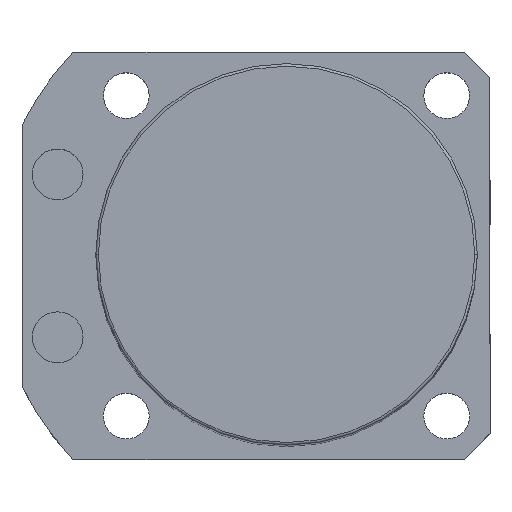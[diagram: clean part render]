
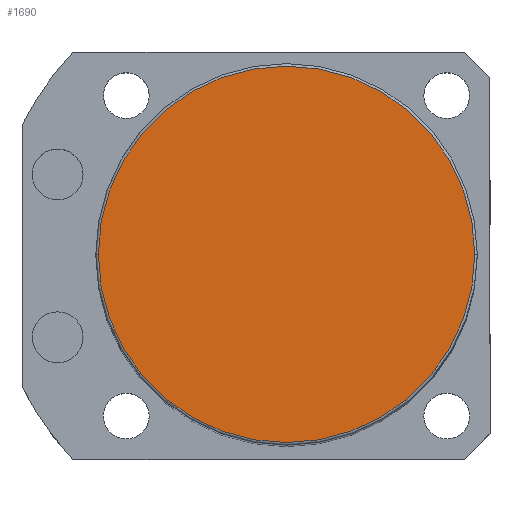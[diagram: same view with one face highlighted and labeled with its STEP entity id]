
A CAD part, top view. The second image highlights one B-rep face of the part: STEP entity #1690.
In plain terms, the highlighted planar face has unit normal (0, 0, 1).
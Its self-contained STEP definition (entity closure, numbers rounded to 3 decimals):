
#29 = ORIENTED_EDGE ( 'NONE', *, *, #324, .T. ) ;
#169 = CARTESIAN_POINT ( 'NONE',  ( -37., 0., 185.5 ) ) ;
#178 = AXIS2_PLACEMENT_3D ( 'NONE', #440, #843, #1451 ) ;
#324 = EDGE_CURVE ( 'NONE', #2023, #1551, #1005, .T. ) ;
#400 = DIRECTION ( 'NONE',  ( 0., 0., 1. ) ) ;
#438 = EDGE_LOOP ( 'NONE', ( #29, #1214 ) ) ;
#440 = CARTESIAN_POINT ( 'NONE',  ( 0., 0., 185.5 ) ) ;
#676 = FACE_OUTER_BOUND ( 'NONE', #438, .T. ) ;
#767 = DIRECTION ( 'NONE',  ( 0., 0., 1. ) ) ;
#843 = DIRECTION ( 'NONE',  ( 0., 0., 1. ) ) ;
#1005 = CIRCLE ( 'NONE', #2028, 37. ) ;
#1138 = EDGE_CURVE ( 'NONE', #1551, #2023, #2393, .T. ) ;
#1214 = ORIENTED_EDGE ( 'NONE', *, *, #1138, .T. ) ;
#1282 = AXIS2_PLACEMENT_3D ( 'NONE', #1612, #400, #2217 ) ;
#1397 = CARTESIAN_POINT ( 'NONE',  ( 0., 0., 185.5 ) ) ;
#1451 = DIRECTION ( 'NONE',  ( 1., 0., 0. ) ) ;
#1488 = CARTESIAN_POINT ( 'NONE',  ( 37., 0., 185.5 ) ) ;
#1551 = VERTEX_POINT ( 'NONE', #169 ) ;
#1604 = DIRECTION ( 'NONE',  ( 1., 0., 0. ) ) ;
#1612 = CARTESIAN_POINT ( 'NONE',  ( 0., 0., 185.5 ) ) ;
#1690 = ADVANCED_FACE ( 'NONE', ( #676 ), #2208, .T. ) ;
#2023 = VERTEX_POINT ( 'NONE', #1488 ) ;
#2028 = AXIS2_PLACEMENT_3D ( 'NONE', #1397, #767, #1604 ) ;
#2208 = PLANE ( 'NONE',  #1282 ) ;
#2217 = DIRECTION ( 'NONE',  ( 1., 0., 0. ) ) ;
#2393 = CIRCLE ( 'NONE', #178, 37. ) ;
